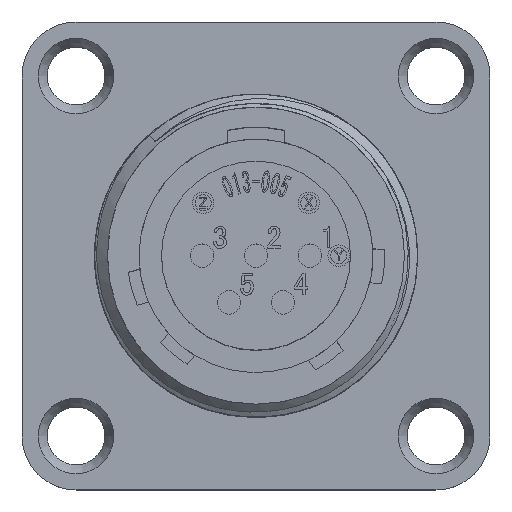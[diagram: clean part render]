
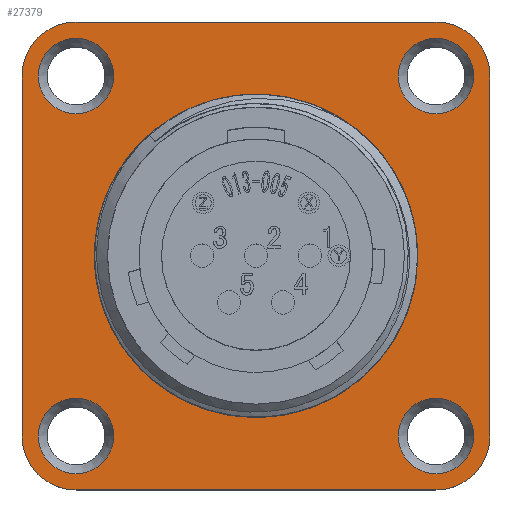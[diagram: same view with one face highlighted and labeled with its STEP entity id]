
A CAD part, top view. The second image highlights one B-rep face of the part: STEP entity #27379.
In plain terms, the highlighted planar face has unit normal (0, 0, 1).
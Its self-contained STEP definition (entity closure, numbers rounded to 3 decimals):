
#18 = AXIS2_PLACEMENT_3D ( 'NONE', #28248, #33614, #8512 ) ;
#39 = ORIENTED_EDGE ( 'NONE', *, *, #4243, .F. ) ;
#107 = CARTESIAN_POINT ( 'NONE',  ( 10., 10., -10.5 ) ) ;
#117 = VERTEX_POINT ( 'NONE', #847 ) ;
#261 = CARTESIAN_POINT ( 'NONE',  ( 10., 10., -10.5 ) ) ;
#390 = DIRECTION ( 'NONE',  ( 1., 0., 0. ) ) ;
#524 = CIRCLE ( 'NONE', #18, 8.98 ) ;
#600 = CARTESIAN_POINT ( 'NONE',  ( 10., -13., -10.5 ) ) ;
#712 = CARTESIAN_POINT ( 'NONE',  ( -7.9, -10., -10.5 ) ) ;
#838 = VECTOR ( 'NONE', #21518, 1000. ) ;
#847 = CARTESIAN_POINT ( 'NONE',  ( 13., 10., -10.5 ) ) ;
#1085 = CARTESIAN_POINT ( 'NONE',  ( -10., -10., -10.5 ) ) ;
#1310 = VERTEX_POINT ( 'NONE', #12662 ) ;
#1959 = VECTOR ( 'NONE', #3277, 1000. ) ;
#2140 = FACE_BOUND ( 'NONE', #14197, .T. ) ;
#2280 = DIRECTION ( 'NONE',  ( 1., 0., 0. ) ) ;
#2379 = DIRECTION ( 'NONE',  ( 1., 0., 0. ) ) ;
#2623 = CARTESIAN_POINT ( 'NONE',  ( -10., -10., -10.5 ) ) ;
#2822 = ORIENTED_EDGE ( 'NONE', *, *, #27669, .F. ) ;
#3266 = ORIENTED_EDGE ( 'NONE', *, *, #24811, .T. ) ;
#3277 = DIRECTION ( 'NONE',  ( 1., 0., 0. ) ) ;
#3758 = DIRECTION ( 'NONE',  ( -1., 0., 0. ) ) ;
#4243 = EDGE_CURVE ( 'NONE', #29421, #29421, #25207, .T. ) ;
#4476 = EDGE_CURVE ( 'NONE', #1310, #6230, #31742, .T. ) ;
#4687 = EDGE_CURVE ( 'NONE', #12155, #12408, #33543, .T. ) ;
#4754 = CARTESIAN_POINT ( 'NONE',  ( 10., -13., -10.5 ) ) ;
#5595 = CARTESIAN_POINT ( 'NONE',  ( -13., 10., -10.5 ) ) ;
#5987 = ORIENTED_EDGE ( 'NONE', *, *, #19964, .F. ) ;
#6019 = CARTESIAN_POINT ( 'NONE',  ( 10., -10., -10.5 ) ) ;
#6143 = DIRECTION ( 'NONE',  ( 1., 0., 0. ) ) ;
#6230 = VERTEX_POINT ( 'NONE', #10389 ) ;
#6253 = DIRECTION ( 'NONE',  ( 0., 0., 1. ) ) ;
#6257 = DIRECTION ( 'NONE',  ( 0., 0., -1. ) ) ;
#8497 = AXIS2_PLACEMENT_3D ( 'NONE', #261, #6253, #390 ) ;
#8512 = DIRECTION ( 'NONE',  ( 1., 0., 0. ) ) ;
#8525 = VECTOR ( 'NONE', #27842, 1000. ) ;
#8551 = VERTEX_POINT ( 'NONE', #5595 ) ;
#9257 = EDGE_CURVE ( 'NONE', #28492, #28492, #14661, .T. ) ;
#9306 = VERTEX_POINT ( 'NONE', #29741 ) ;
#9819 = ORIENTED_EDGE ( 'NONE', *, *, #27159, .F. ) ;
#9850 = ORIENTED_EDGE ( 'NONE', *, *, #9257, .F. ) ;
#10099 = VERTEX_POINT ( 'NONE', #22819 ) ;
#10180 = VERTEX_POINT ( 'NONE', #26699 ) ;
#10389 = CARTESIAN_POINT ( 'NONE',  ( -13., -10., -10.5 ) ) ;
#10572 = CARTESIAN_POINT ( 'NONE',  ( 10., 13., -10.5 ) ) ;
#10576 = AXIS2_PLACEMENT_3D ( 'NONE', #1085, #31561, #20613 ) ;
#11979 = EDGE_LOOP ( 'NONE', ( #9850 ) ) ;
#12095 = DIRECTION ( 'NONE',  ( 0., 0., -1. ) ) ;
#12155 = VERTEX_POINT ( 'NONE', #14705 ) ;
#12234 = FACE_BOUND ( 'NONE', #11979, .T. ) ;
#12393 = ORIENTED_EDGE ( 'NONE', *, *, #15001, .F. ) ;
#12408 = VERTEX_POINT ( 'NONE', #600 ) ;
#12662 = CARTESIAN_POINT ( 'NONE',  ( -10., -13., -10.5 ) ) ;
#12816 = EDGE_LOOP ( 'NONE', ( #33322, #2822, #31612, #9819, #32445, #24017, #5987, #12393 ) ) ;
#13981 = FACE_OUTER_BOUND ( 'NONE', #12816, .T. ) ;
#14197 = EDGE_LOOP ( 'NONE', ( #39 ) ) ;
#14607 = CARTESIAN_POINT ( 'NONE',  ( 10., -10., -10.5 ) ) ;
#14661 = CIRCLE ( 'NONE', #19197, 2.1 ) ;
#14705 = CARTESIAN_POINT ( 'NONE',  ( 13., -10., -10.5 ) ) ;
#14863 = LINE ( 'NONE', #4754, #30944 ) ;
#14988 = EDGE_LOOP ( 'NONE', ( #15961 ) ) ;
#15001 = EDGE_CURVE ( 'NONE', #6230, #8551, #31626, .T. ) ;
#15638 = EDGE_LOOP ( 'NONE', ( #26587 ) ) ;
#15961 = ORIENTED_EDGE ( 'NONE', *, *, #34187, .F. ) ;
#16109 = CARTESIAN_POINT ( 'NONE',  ( -10., 10., -10.5 ) ) ;
#16391 = EDGE_CURVE ( 'NONE', #24118, #24118, #23614, .T. ) ;
#16697 = AXIS2_PLACEMENT_3D ( 'NONE', #107, #12095, #3758 ) ;
#17024 = DIRECTION ( 'NONE',  ( 0., 0., 1. ) ) ;
#17175 = DIRECTION ( 'NONE',  ( 1., 0., 0. ) ) ;
#17412 = DIRECTION ( 'NONE',  ( 1., 0., 0. ) ) ;
#17906 = FACE_BOUND ( 'NONE', #15638, .T. ) ;
#18320 = FACE_BOUND ( 'NONE', #14988, .T. ) ;
#18607 = CIRCLE ( 'NONE', #16697, 3. ) ;
#19197 = AXIS2_PLACEMENT_3D ( 'NONE', #14607, #34072, #17412 ) ;
#19357 = DIRECTION ( 'NONE',  ( 0., 0., -1. ) ) ;
#19964 = EDGE_CURVE ( 'NONE', #8551, #10099, #21255, .T. ) ;
#20613 = DIRECTION ( 'NONE',  ( 1., 0., 0. ) ) ;
#21255 = CIRCLE ( 'NONE', #25672, 3. ) ;
#21351 = AXIS2_PLACEMENT_3D ( 'NONE', #28076, #17024, #6143 ) ;
#21518 = DIRECTION ( 'NONE',  ( 0., -1., 0. ) ) ;
#21843 = DIRECTION ( 'NONE',  ( -1., 0., 0. ) ) ;
#22620 = DIRECTION ( 'NONE',  ( 0., 0., 1. ) ) ;
#22819 = CARTESIAN_POINT ( 'NONE',  ( -10., 13., -10.5 ) ) ;
#23013 = CARTESIAN_POINT ( 'NONE',  ( 10., 13., -10.5 ) ) ;
#23614 = CIRCLE ( 'NONE', #31697, 2.1 ) ;
#24017 = ORIENTED_EDGE ( 'NONE', *, *, #30938, .F. ) ;
#24118 = VERTEX_POINT ( 'NONE', #26944 ) ;
#24450 = CARTESIAN_POINT ( 'NONE',  ( 13., 10., -10.5 ) ) ;
#24811 = EDGE_CURVE ( 'NONE', #9306, #9306, #524, .T. ) ;
#24834 = AXIS2_PLACEMENT_3D ( 'NONE', #2623, #19357, #2379 ) ;
#25207 = CIRCLE ( 'NONE', #10576, 2.1 ) ;
#25672 = AXIS2_PLACEMENT_3D ( 'NONE', #16109, #30335, #2280 ) ;
#25695 = FACE_BOUND ( 'NONE', #36129, .T. ) ;
#25759 = DIRECTION ( 'NONE',  ( -1., 0., 0. ) ) ;
#25841 = CARTESIAN_POINT ( 'NONE',  ( 12.1, -10., -10.5 ) ) ;
#26587 = ORIENTED_EDGE ( 'NONE', *, *, #16391, .F. ) ;
#26699 = CARTESIAN_POINT ( 'NONE',  ( 12.1, 10., -10.5 ) ) ;
#26944 = CARTESIAN_POINT ( 'NONE',  ( -7.9, 10., -10.5 ) ) ;
#27159 = EDGE_CURVE ( 'NONE', #117, #12155, #33147, .T. ) ;
#27379 = ADVANCED_FACE ( 'NONE', ( #13981, #2140, #12234, #18320, #17906, #25695 ), #31243, .T. ) ;
#27669 = EDGE_CURVE ( 'NONE', #12408, #1310, #14863, .T. ) ;
#27842 = DIRECTION ( 'NONE',  ( 0., 1., 0. ) ) ;
#28076 = CARTESIAN_POINT ( 'NONE',  ( -10., -10., -10.5 ) ) ;
#28181 = CIRCLE ( 'NONE', #8497, 2.1 ) ;
#28248 = CARTESIAN_POINT ( 'NONE',  ( 0., 0., -10.5 ) ) ;
#28492 = VERTEX_POINT ( 'NONE', #25841 ) ;
#29421 = VERTEX_POINT ( 'NONE', #712 ) ;
#29741 = CARTESIAN_POINT ( 'NONE',  ( 8.98, 0., -10.5 ) ) ;
#30335 = DIRECTION ( 'NONE',  ( 0., 0., -1. ) ) ;
#30677 = CARTESIAN_POINT ( 'NONE',  ( -10., 10., -10.5 ) ) ;
#30938 = EDGE_CURVE ( 'NONE', #10099, #31239, #34281, .T. ) ;
#30944 = VECTOR ( 'NONE', #21843, 1000. ) ;
#31239 = VERTEX_POINT ( 'NONE', #10572 ) ;
#31243 = PLANE ( 'NONE',  #21351 ) ;
#31561 = DIRECTION ( 'NONE',  ( 0., 0., 1. ) ) ;
#31612 = ORIENTED_EDGE ( 'NONE', *, *, #4687, .F. ) ;
#31626 = LINE ( 'NONE', #35764, #8525 ) ;
#31697 = AXIS2_PLACEMENT_3D ( 'NONE', #30677, #22620, #17175 ) ;
#31742 = CIRCLE ( 'NONE', #24834, 3. ) ;
#32445 = ORIENTED_EDGE ( 'NONE', *, *, #34662, .F. ) ;
#33000 = AXIS2_PLACEMENT_3D ( 'NONE', #6019, #6257, #25759 ) ;
#33147 = LINE ( 'NONE', #24450, #838 ) ;
#33322 = ORIENTED_EDGE ( 'NONE', *, *, #4476, .F. ) ;
#33543 = CIRCLE ( 'NONE', #33000, 3. ) ;
#33614 = DIRECTION ( 'NONE',  ( 0., 0., -1. ) ) ;
#34072 = DIRECTION ( 'NONE',  ( 0., 0., 1. ) ) ;
#34187 = EDGE_CURVE ( 'NONE', #10180, #10180, #28181, .T. ) ;
#34281 = LINE ( 'NONE', #23013, #1959 ) ;
#34662 = EDGE_CURVE ( 'NONE', #31239, #117, #18607, .T. ) ;
#35764 = CARTESIAN_POINT ( 'NONE',  ( -13., 10., -10.5 ) ) ;
#36129 = EDGE_LOOP ( 'NONE', ( #3266 ) ) ;
